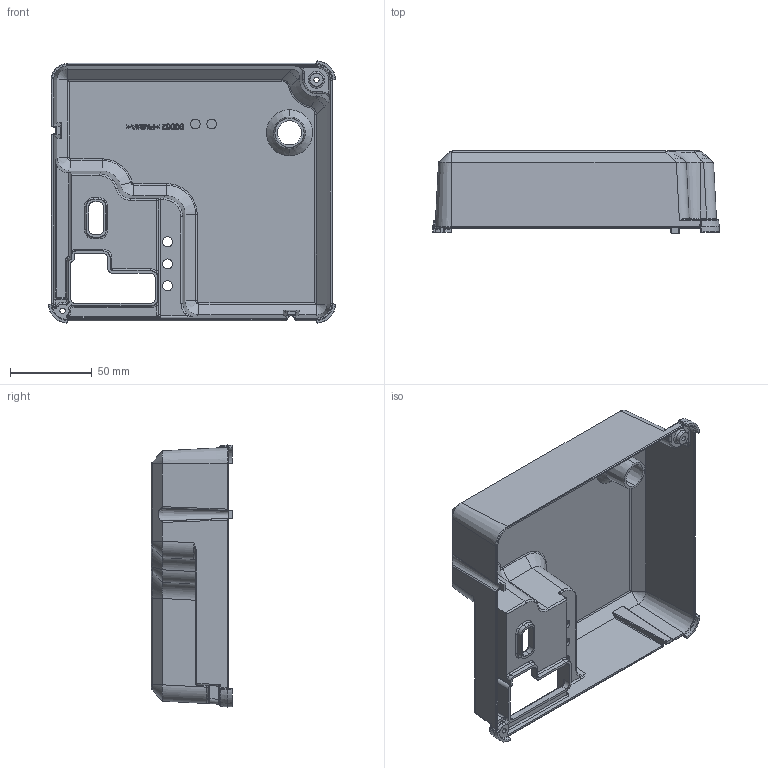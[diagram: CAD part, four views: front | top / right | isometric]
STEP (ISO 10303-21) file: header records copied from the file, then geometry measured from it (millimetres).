
FILE_DESCRIPTION (( 'STEP AP214' ), '1' );
FILE_NAME ('10113V000_Abdeckung_Steuerung_Index_5.STEP', '2014-11-24T07:42:03', ( 'Admin' ), ( '' ), 'SwSTEP 2.0', 'SolidWorks 2014', '' );
FILE_SCHEMA (( 'AUTOMOTIVE_DESIGN' ));
Length unit declared in the file: millimetre
Products named in the file (1): 10113V000_Abdeckung_Steuerung_Index_5
Bounding box: 174.98 x 50 x 159.98 mm (x, y, z)
Volume: 81218.8 mm3; surface area: 108057 mm2
Topology: 1 solids, 1 shells, 662 faces, 1700 edges, 1026 vertices
Faces by surface type: bspline 221, plane 194, cylinder 157, cone 52, torus 23, sphere 15
Entity records: 34396 total; most frequent: CARTESIAN_POINT 16904, ORIENTED_EDGE 3330, DIRECTION 2220, EDGE_CURVE 1665, VERTEX_POINT 1026, AXIS2_PLACEMENT_3D 756, LINE 708, VECTOR 708
